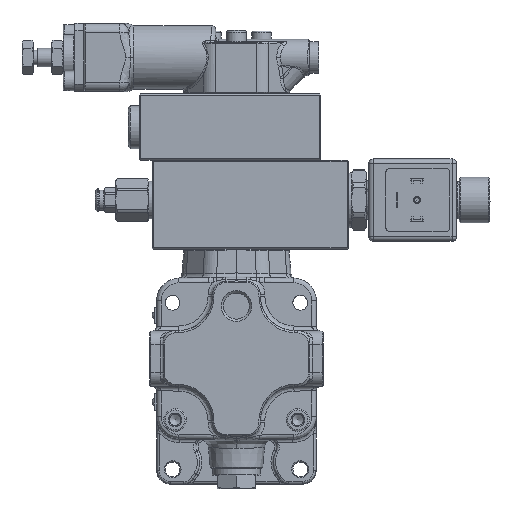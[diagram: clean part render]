
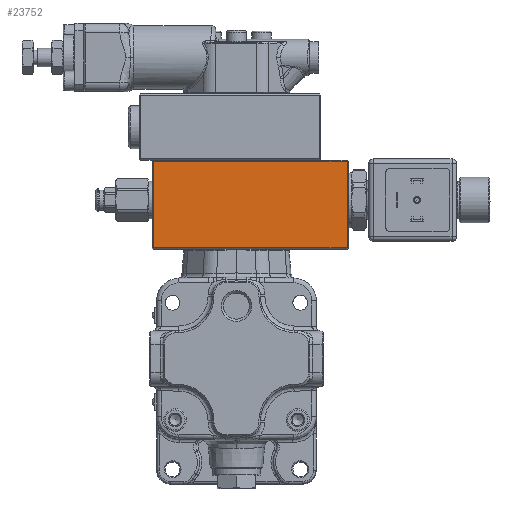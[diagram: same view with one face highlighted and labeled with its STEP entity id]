
A CAD part, top view. The second image highlights one B-rep face of the part: STEP entity #23752.
In plain terms, the highlighted planar face has unit normal (0, 0, 1).
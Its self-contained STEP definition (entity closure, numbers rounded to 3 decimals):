
#1594=PLANE('',#25406);
#2342=FACE_OUTER_BOUND('',#3810,.T.);
#3810=EDGE_LOOP('',(#16409,#16410,#16411,#16412));
#5612=LINE('',#35795,#7249);
#5616=LINE('',#35803,#7253);
#5634=LINE('',#35835,#7271);
#5635=LINE('',#35837,#7272);
#7249=VECTOR('',#28597,10.);
#7253=VECTOR('',#28605,10.);
#7271=VECTOR('',#28637,10.);
#7272=VECTOR('',#28640,10.);
#9868=VERTEX_POINT('',#35773);
#9874=VERTEX_POINT('',#35788);
#9876=VERTEX_POINT('',#35797);
#9884=VERTEX_POINT('',#35830);
#12214=EDGE_CURVE('',#9868,#9874,#5612,.T.);
#12218=EDGE_CURVE('',#9876,#9868,#5616,.T.);
#12236=EDGE_CURVE('',#9874,#9884,#5634,.T.);
#12237=EDGE_CURVE('',#9884,#9876,#5635,.T.);
#16409=ORIENTED_EDGE('',*,*,#12214,.F.);
#16410=ORIENTED_EDGE('',*,*,#12218,.F.);
#16411=ORIENTED_EDGE('',*,*,#12237,.F.);
#16412=ORIENTED_EDGE('',*,*,#12236,.F.);
#23752=ADVANCED_FACE('',(#2342),#1594,.T.);
#25406=AXIS2_PLACEMENT_3D('',#35856,#28663,#28664);
#28597=DIRECTION('',(-1.,0.,0.));
#28605=DIRECTION('',(0.,-1.,0.));
#28637=DIRECTION('',(0.,1.,0.));
#28640=DIRECTION('',(1.,0.,0.));
#28663=DIRECTION('center_axis',(0.,0.,
1.));
#28664=DIRECTION('ref_axis',(1.,0.,0.));
#35773=CARTESIAN_POINT('',(39.884,48.811,14.052));
#35788=CARTESIAN_POINT('',(-45.116,48.811,14.052));
#35795=CARTESIAN_POINT('',(-24.116,48.811,14.052));
#35797=CARTESIAN_POINT('',(39.884,86.811,14.052));
#35803=CARTESIAN_POINT('',(39.884,48.311,14.052));
#35830=CARTESIAN_POINT('',(-45.116,86.811,14.052));
#35835=CARTESIAN_POINT('',(-45.116,48.311,14.052));
#35837=CARTESIAN_POINT('',(-24.116,86.811,14.052));
#35856=CARTESIAN_POINT('Origin',(-45.616,48.311,14.052));
